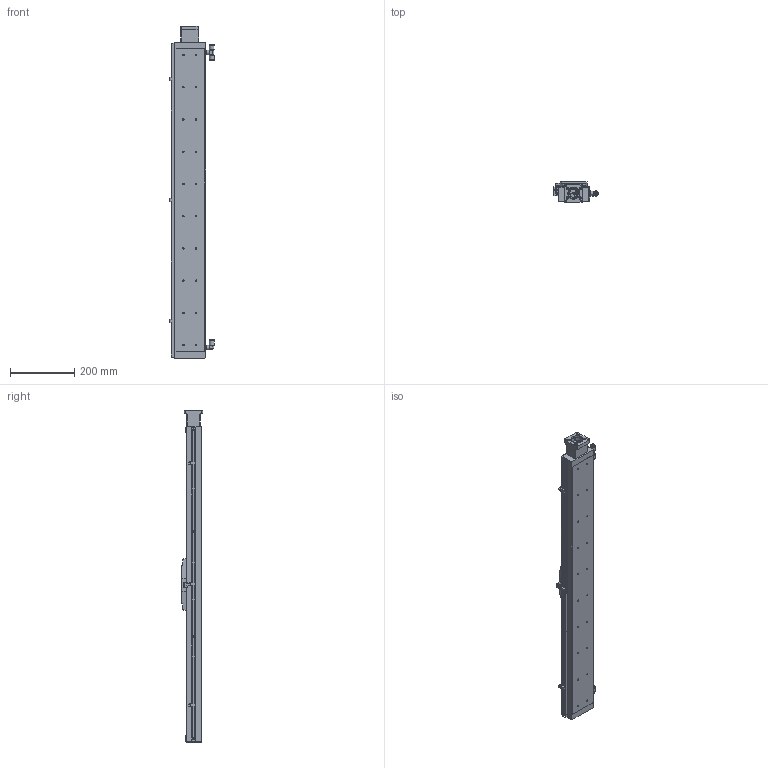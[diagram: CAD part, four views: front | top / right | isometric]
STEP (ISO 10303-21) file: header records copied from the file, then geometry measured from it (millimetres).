
FILE_DESCRIPTION((''),'2;1');
FILE_NAME('E:\libraries\UIA actuator library 2016\Clean room actuator\UIA098CR12DC\UIA098CR12 stp file 05May16\UIA098CR12DC-750-R16_ _-M23-P13-C10-S.stp','2016-05-09T16:25:08',('h029'),(''),'Autodesk Inventor 11','Autodesk Inventor 11','');
FILE_SCHEMA(('AUTOMOTIVE_DESIGN { 1 0 10303 214 1 1 1 1 }'));
Length unit declared in the file: millimetre
Products named in the file (12): UIA098CR12DC-750; body, UIA098CR12DC-750; carriage, UIA098CR12DC; Sensor Switch, UIA098CR12DC; SOH-25C; SOH-25C-2; SOH-25C-3; SOH-25C-1; Motor mount; Sensor Rail, UIA098CR12DC-750_MIR; vacuum port 1, UIA098CR12DC_MIR; vacuum port 2, UIA098CR12DC_MIR
Assembly tree (11 placements, depth 3):
  UIA098CR12DC-750
    body, UIA098CR12DC-750
    carriage, UIA098CR12DC
    Sensor Switch, UIA098CR12DC
    SOH-25C
      SOH-25C-2
      SOH-25C-3
      SOH-25C-1
    Motor mount
    Sensor Rail, UIA098CR12DC-750_MIR
    vacuum port 1, UIA098CR12DC_MIR
    vacuum port 2, UIA098CR12DC_MIR
Bounding box: 138.4 x 65.5 x 1030 mm (x, y, z)
Volume: 4664130.9 mm3; surface area: 432531.4 mm2
Topology: 10 solids, 10 shells, 694 faces, 1791 edges, 1168 vertices
Faces by surface type: bspline 308, plane 295, cylinder 87, cone 4
Full cylindrical faces by diameter (mm): 3.5 x4, 5.6 x8, 8 x4, 9 x2, 10 x1, 13 x1, 15 x2, 18 x1, 25.5 x3, 37 x1, 38.1 x1
Entity records: 22461 total; most frequent: CARTESIAN_POINT 6708, ORIENTED_EDGE 3190, DIRECTION 2803, EDGE_CURVE 1595, VECTOR 1139, LINE 1139, VERTEX_POINT 1109, EDGE_LOOP 968
